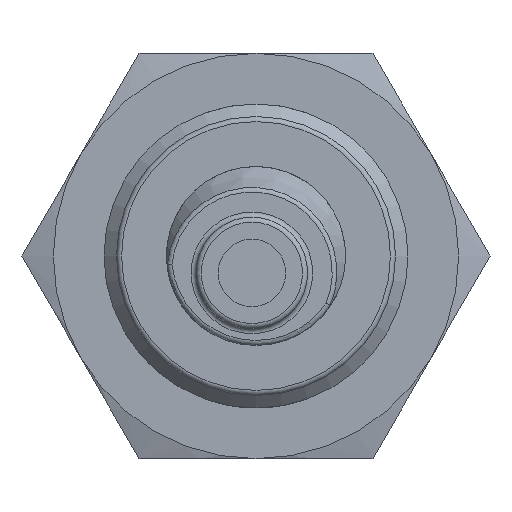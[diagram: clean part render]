
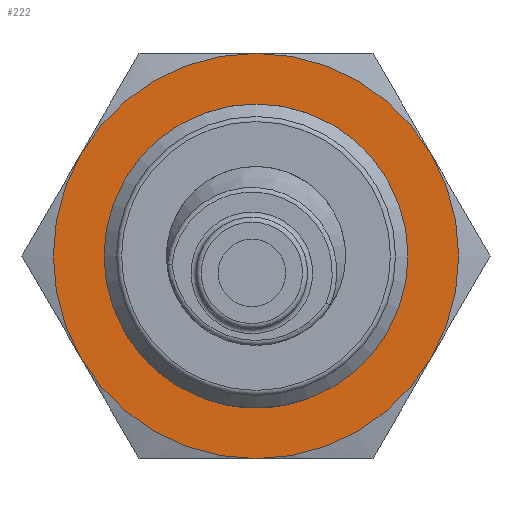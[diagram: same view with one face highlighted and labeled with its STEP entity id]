
A CAD part, left-side view. The second image highlights one B-rep face of the part: STEP entity #222.
In plain terms, the highlighted planar face has unit normal (-1, 0, 0).
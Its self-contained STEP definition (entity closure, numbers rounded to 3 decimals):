
#222 = ADVANCED_FACE( '', ( #338, #339 ), #340, .T. );
#338 = FACE_BOUND( '', #468, .T. );
#339 = FACE_OUTER_BOUND( '', #469, .T. );
#340 = PLANE( '', #470 );
#468 = EDGE_LOOP( '', ( #753 ) );
#469 = EDGE_LOOP( '', ( #754, #755, #756, #757, #758, #759 ) );
#470 = AXIS2_PLACEMENT_3D( '', #760, #761, #762 );
#753 = ORIENTED_EDGE( '', *, *, #898, .T. );
#754 = ORIENTED_EDGE( '', *, *, #899, .F. );
#755 = ORIENTED_EDGE( '', *, *, #900, .F. );
#756 = ORIENTED_EDGE( '', *, *, #861, .F. );
#757 = ORIENTED_EDGE( '', *, *, #901, .F. );
#758 = ORIENTED_EDGE( '', *, *, #864, .F. );
#759 = ORIENTED_EDGE( '', *, *, #902, .F. );
#760 = CARTESIAN_POINT( '', ( 0., 12., 0. ) );
#761 = DIRECTION( '', ( -1., 0., 0. ) );
#762 = DIRECTION( '', ( 0., 0., 1. ) );
#861 = EDGE_CURVE( '', #979, #977, #981, .T. );
#864 = EDGE_CURVE( '', #985, #983, #987, .T. );
#898 = EDGE_CURVE( '', #1040, #1040, #1041, .T. );
#899 = EDGE_CURVE( '', #1019, #998, #1042, .T. );
#900 = EDGE_CURVE( '', #977, #1019, #1043, .T. );
#901 = EDGE_CURVE( '', #983, #979, #1044, .T. );
#902 = EDGE_CURVE( '', #998, #985, #1045, .T. );
#977 = VERTEX_POINT( '', #1195 );
#979 = VERTEX_POINT( '', #1202 );
#981 = CIRCLE( '', #1209, 12. );
#983 = VERTEX_POINT( '', #1211 );
#985 = VERTEX_POINT( '', #1218 );
#987 = CIRCLE( '', #1225, 12. );
#998 = VERTEX_POINT( '', #1253 );
#1019 = VERTEX_POINT( '', #1295 );
#1040 = VERTEX_POINT( '', #1384 );
#1041 = CIRCLE( '', #1385, 9. );
#1042 = CIRCLE( '', #1386, 12. );
#1043 = CIRCLE( '', #1387, 12. );
#1044 = CIRCLE( '', #1388, 12. );
#1045 = CIRCLE( '', #1389, 12. );
#1195 = CARTESIAN_POINT( '', ( 0., 0., -12. ) );
#1202 = CARTESIAN_POINT( '', ( 0., -10.392, -6. ) );
#1209 = AXIS2_PLACEMENT_3D( '', #1480, #1481, #1482 );
#1211 = CARTESIAN_POINT( '', ( 0., -10.392, 6. ) );
#1218 = CARTESIAN_POINT( '', ( 0., 0., 12. ) );
#1225 = AXIS2_PLACEMENT_3D( '', #1483, #1484, #1485 );
#1253 = CARTESIAN_POINT( '', ( 0., 10.392, 6. ) );
#1295 = CARTESIAN_POINT( '', ( 0., 10.392, -6. ) );
#1384 = CARTESIAN_POINT( '', ( 0., 0., -9. ) );
#1385 = AXIS2_PLACEMENT_3D( '', #1513, #1514, #1515 );
#1386 = AXIS2_PLACEMENT_3D( '', #1516, #1517, #1518 );
#1387 = AXIS2_PLACEMENT_3D( '', #1519, #1520, #1521 );
#1388 = AXIS2_PLACEMENT_3D( '', #1522, #1523, #1524 );
#1389 = AXIS2_PLACEMENT_3D( '', #1525, #1526, #1527 );
#1480 = CARTESIAN_POINT( '', ( 0., 0., 0. ) );
#1481 = DIRECTION( '', ( 1., 0., 0. ) );
#1482 = DIRECTION( '', ( 0., 0., -1. ) );
#1483 = CARTESIAN_POINT( '', ( 0., 0., 0. ) );
#1484 = DIRECTION( '', ( 1., 0., 0. ) );
#1485 = DIRECTION( '', ( 0., 0., -1. ) );
#1513 = CARTESIAN_POINT( '', ( 0., 0., 0. ) );
#1514 = DIRECTION( '', ( 1., 0., 0. ) );
#1515 = DIRECTION( '', ( 0., 0., -1. ) );
#1516 = CARTESIAN_POINT( '', ( 0., 0., 0. ) );
#1517 = DIRECTION( '', ( 1., 0., 0. ) );
#1518 = DIRECTION( '', ( 0., 0., -1. ) );
#1519 = CARTESIAN_POINT( '', ( 0., 0., 0. ) );
#1520 = DIRECTION( '', ( 1., 0., 0. ) );
#1521 = DIRECTION( '', ( 0., 0., -1. ) );
#1522 = CARTESIAN_POINT( '', ( 0., 0., 0. ) );
#1523 = DIRECTION( '', ( 1., 0., 0. ) );
#1524 = DIRECTION( '', ( 0., 0., -1. ) );
#1525 = CARTESIAN_POINT( '', ( 0., 0., 0. ) );
#1526 = DIRECTION( '', ( 1., 0., 0. ) );
#1527 = DIRECTION( '', ( 0., 0., -1. ) );
